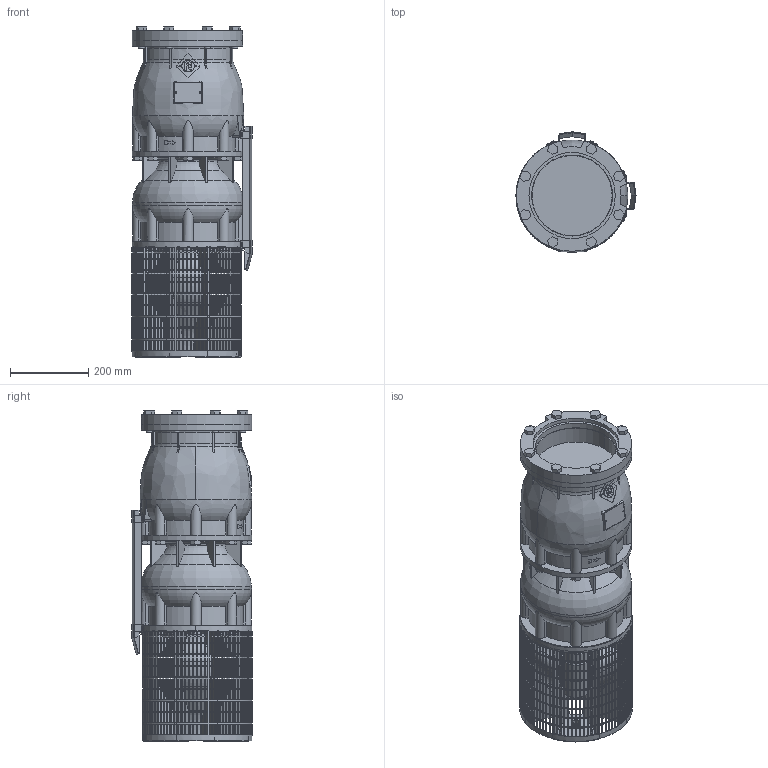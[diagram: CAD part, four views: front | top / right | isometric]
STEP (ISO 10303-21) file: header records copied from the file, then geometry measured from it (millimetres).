
FILE_DESCRIPTION(/* description */ ('-'),/* implementation_level */ '2;1');
FILE_NAME(/* name */ 'VSI454-1_WF_M8-50_SLE',/* time_stamp */ '2026-01-21T12:47:51+01:00',/* author */ ('Simonelli M.'),/* organization */ ('Franklin Electric Srl'),/* preprocessor_version */ 'ST-DEVELOPER v18.102',/* originating_system */ 'Solid Edge',/* authorisation */ 'Unknown');
FILE_SCHEMA (('AUTOMOTIVE_DESIGN {1 0 10303 214 3 1 1}'));
Products named in the file (12): VSI454-1_WF_M8-50_SLE; VSI344-454_testata; VSI344-454_supporto; VSI344-454_filtro_A; VSI344-454_filtro_B; VSI344-454_terminale_top_copricavo_basso; VSI344-454_terminale_bottom_copricavo_basso; LOW 454-1; VSI454_diffusore; M5X8_UNI7687; VSI184-254_giunto_10×8; VSI344-454_flangia_testata
Assembly tree (25 placements, depth 2):
  VSI454-1_WF_M8-50_SLE
    VSI344-454_testata
    VSI344-454_supporto
    VSI344-454_filtro_A
    VSI344-454_filtro_B
    VSI344-454_terminale_top_copricavo_basso  x2
    VSI344-454_terminale_bottom_copricavo_basso  x2
    LOW 454-1  x2
    VSI454_diffusore
    M5X8_UNI7687  x12
    VSI184-254_giunto_10×8
    VSI344-454_flangia_testata
Bounding box: 306.94 x 306.94 x 845 mm (x, y, z)
Volume: 29308804.3 mm3; surface area: 2027672.4 mm2
Topology: 90 solids, 90 shells, 4042 faces, 11375 edges, 7553 vertices
Faces by surface type: plane 3296, cylinder 513, torus 133, cone 73, bspline 15, sphere 12
Full cylindrical faces by diameter (mm): 5 x12, 16 x8, 35 x1, 65 x1, 69 x1, 150 x1, 207 x1, 220.5 x1, 284.507 x1, 285 x1
Entity records: 127614 total; most frequent: CARTESIAN_POINT 28631, ORIENTED_EDGE 20792, DIRECTION 19898, EDGE_CURVE 10396, VERTEX_POINT 6933, AXIS2_PLACEMENT_3D 6720, LINE 6458, VECTOR 6458
